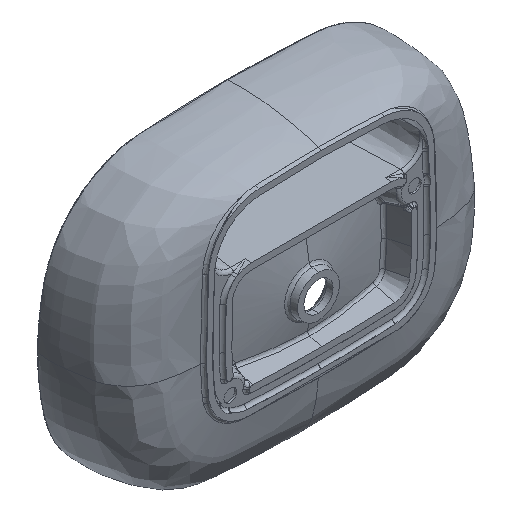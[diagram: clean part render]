
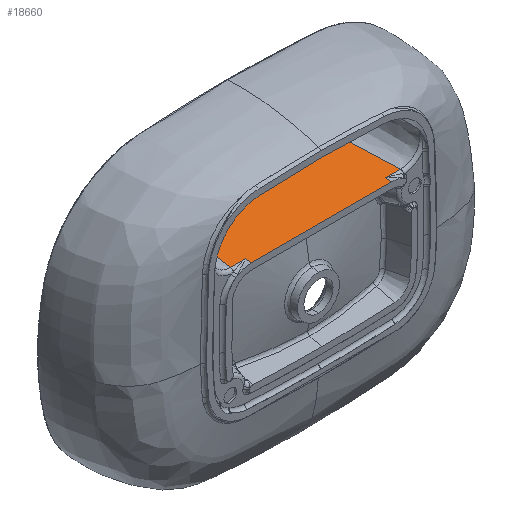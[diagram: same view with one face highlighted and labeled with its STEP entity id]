
A CAD part, isometric view. The second image highlights one B-rep face of the part: STEP entity #18660.
In plain terms, the highlighted planar face has unit normal (0, -0.052, 0.999).
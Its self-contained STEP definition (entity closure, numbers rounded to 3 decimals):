
#140 = EDGE_CURVE ( 'NONE', #9421, #29339, #10007, .T. ) ;
#627 = ORIENTED_EDGE ( 'NONE', *, *, #8367, .T. ) ;
#1287 = CARTESIAN_POINT ( 'NONE',  ( -123.549, -24.738, 110.36 ) ) ;
#1323 = CARTESIAN_POINT ( 'NONE',  ( -110.613, -150., 103.795 ) ) ;
#1355 = CARTESIAN_POINT ( 'NONE',  ( -124.603, -34.35, 109.856 ) ) ;
#2011 = VERTEX_POINT ( 'NONE', #35328 ) ;
#3105 = LINE ( 'NONE', #6483, #16649 ) ;
#3310 = ORIENTED_EDGE ( 'NONE', *, *, #34418, .T. ) ;
#3658 = VECTOR ( 'NONE', #9796, 1000. ) ;
#4284 = LINE ( 'NONE', #13783, #29683 ) ;
#4521 = CARTESIAN_POINT ( 'NONE',  ( -128.436, -72.834, 107.839 ) ) ;
#5305 = CARTESIAN_POINT ( 'NONE',  ( -110.613, -140.262, 104.306 ) ) ;
#6240 = ORIENTED_EDGE ( 'NONE', *, *, #7830, .F. ) ;
#6260 = CARTESIAN_POINT ( 'NONE',  ( 132.733, -120.987, 105.316 ) ) ;
#6272 = CARTESIAN_POINT ( 'NONE',  ( 123.549, -24.738, 110.36 ) ) ;
#6483 = CARTESIAN_POINT ( 'NONE',  ( -110.613, -150., 103.795 ) ) ;
#7094 = CARTESIAN_POINT ( 'NONE',  ( 123.549, -24.738, 110.36 ) ) ;
#7830 = EDGE_CURVE ( 'NONE', #9421, #18422, #41319, .T. ) ;
#8367 = EDGE_CURVE ( 'NONE', #29339, #21432, #10459, .T. ) ;
#9123 = EDGE_CURVE ( 'NONE', #37954, #2011, #20925, .T. ) ;
#9421 = VERTEX_POINT ( 'NONE', #13854 ) ;
#9626 = CARTESIAN_POINT ( 'NONE',  ( 128.436, -72.834, 107.839 ) ) ;
#9796 = DIRECTION ( 'NONE',  ( 1., 0., 0. ) ) ;
#9902 = EDGE_CURVE ( 'NONE', #38006, #37954, #10876, .T. ) ;
#10007 = LINE ( 'NONE', #31983, #3658 ) ;
#10459 = B_SPLINE_CURVE_WITH_KNOTS ( 'NONE', 3,
 ( #35181, #6260, #12791, #9626, #36025, #39610, #40028, #7094 ),
 .UNSPECIFIED., .F., .F.,
 ( 4, 2, 2, 4 ),
 ( 0.005, 0.063, 0.092, 0.121 ),
 .UNSPECIFIED. ) ;
#10636 = CARTESIAN_POINT ( 'NONE',  ( -134.288, -140.262, 104.306 ) ) ;
#10876 = B_SPLINE_CURVE_WITH_KNOTS ( 'NONE', 3,
 ( #26890, #1355, #39793, #14229, #4521, #40221, #26477, #10636 ),
 .UNSPECIFIED., .F., .F.,
 ( 4, 2, 2, 4 ),
 ( 0.005, 0.034, 0.063, 0.121 ),
 .UNSPECIFIED. ) ;
#11551 = CARTESIAN_POINT ( 'NONE',  ( 110.613, -150., 103.795 ) ) ;
#12574 = AXIS2_PLACEMENT_3D ( 'NONE', #38691, #25790, #16505 ) ;
#12592 = DIRECTION ( 'NONE',  ( 0., -0.999, -0.052 ) ) ;
#12791 = CARTESIAN_POINT ( 'NONE',  ( 131.091, -101.719, 106.325 ) ) ;
#13580 = ORIENTED_EDGE ( 'NONE', *, *, #140, .T. ) ;
#13783 = CARTESIAN_POINT ( 'NONE',  ( -127.984, -24.738, 110.36 ) ) ;
#13854 = CARTESIAN_POINT ( 'NONE',  ( 110.613, -140.262, 104.306 ) ) ;
#13964 = ORIENTED_EDGE ( 'NONE', *, *, #9902, .T. ) ;
#14229 = CARTESIAN_POINT ( 'NONE',  ( -127.519, -63.209, 108.344 ) ) ;
#15267 = CARTESIAN_POINT ( 'NONE',  ( 134.288, -140.262, 104.306 ) ) ;
#15882 = FACE_OUTER_BOUND ( 'NONE', #16751, .T. ) ;
#16505 = DIRECTION ( 'NONE',  ( 0., 0.999, 0.052 ) ) ;
#16649 = VECTOR ( 'NONE', #12592, 1000. ) ;
#16751 = EDGE_LOOP ( 'NONE', ( #627, #3310, #13964, #28179, #28224, #27927, #6240, #13580 ) ) ;
#18422 = VERTEX_POINT ( 'NONE', #29436 ) ;
#18660 = ADVANCED_FACE ( 'NONE', ( #15882 ), #26203, .F. ) ;
#19971 = EDGE_CURVE ( 'NONE', #2011, #32396, #3105, .T. ) ;
#20925 = LINE ( 'NONE', #5305, #30473 ) ;
#21432 = VERTEX_POINT ( 'NONE', #6272 ) ;
#22409 = VECTOR ( 'NONE', #22500, 1000. ) ;
#22500 = DIRECTION ( 'NONE',  ( 0., -0.999, -0.052 ) ) ;
#23700 = DIRECTION ( 'NONE',  ( -1., 0., 0. ) ) ;
#24021 = LINE ( 'NONE', #36906, #32404 ) ;
#25790 = DIRECTION ( 'NONE',  ( 0., 0.052, -0.999 ) ) ;
#26203 = PLANE ( 'NONE',  #12574 ) ;
#26477 = CARTESIAN_POINT ( 'NONE',  ( -132.733, -120.987, 105.316 ) ) ;
#26890 = CARTESIAN_POINT ( 'NONE',  ( -123.549, -24.738, 110.36 ) ) ;
#27606 = DIRECTION ( 'NONE',  ( 1., 0., 0. ) ) ;
#27927 = ORIENTED_EDGE ( 'NONE', *, *, #35425, .T. ) ;
#28179 = ORIENTED_EDGE ( 'NONE', *, *, #9123, .T. ) ;
#28224 = ORIENTED_EDGE ( 'NONE', *, *, #19971, .T. ) ;
#29339 = VERTEX_POINT ( 'NONE', #15267 ) ;
#29436 = CARTESIAN_POINT ( 'NONE',  ( 110.613, -150., 103.795 ) ) ;
#29683 = VECTOR ( 'NONE', #23700, 1000. ) ;
#30211 = CARTESIAN_POINT ( 'NONE',  ( -134.288, -140.262, 104.306 ) ) ;
#30473 = VECTOR ( 'NONE', #34647, 1000. ) ;
#31983 = CARTESIAN_POINT ( 'NONE',  ( 134.669, -140.262, 104.306 ) ) ;
#32396 = VERTEX_POINT ( 'NONE', #1323 ) ;
#32404 = VECTOR ( 'NONE', #27606, 1000. ) ;
#34418 = EDGE_CURVE ( 'NONE', #21432, #38006, #4284, .T. ) ;
#34647 = DIRECTION ( 'NONE',  ( 1., 0., 0. ) ) ;
#35181 = CARTESIAN_POINT ( 'NONE',  ( 134.288, -140.262, 104.306 ) ) ;
#35328 = CARTESIAN_POINT ( 'NONE',  ( -110.613, -140.262, 104.306 ) ) ;
#35425 = EDGE_CURVE ( 'NONE', #32396, #18422, #24021, .T. ) ;
#36025 = CARTESIAN_POINT ( 'NONE',  ( 127.519, -63.209, 108.344 ) ) ;
#36906 = CARTESIAN_POINT ( 'NONE',  ( 169.261, -150., 103.795 ) ) ;
#37954 = VERTEX_POINT ( 'NONE', #30211 ) ;
#38006 = VERTEX_POINT ( 'NONE', #1287 ) ;
#38691 = CARTESIAN_POINT ( 'NONE',  ( 169.261, -150., 103.795 ) ) ;
#39610 = CARTESIAN_POINT ( 'NONE',  ( 125.602, -43.967, 109.352 ) ) ;
#39793 = CARTESIAN_POINT ( 'NONE',  ( -125.602, -43.967, 109.352 ) ) ;
#40028 = CARTESIAN_POINT ( 'NONE',  ( 124.603, -34.35, 109.856 ) ) ;
#40221 = CARTESIAN_POINT ( 'NONE',  ( -131.091, -101.719, 106.325 ) ) ;
#41319 = LINE ( 'NONE', #11551, #22409 ) ;
